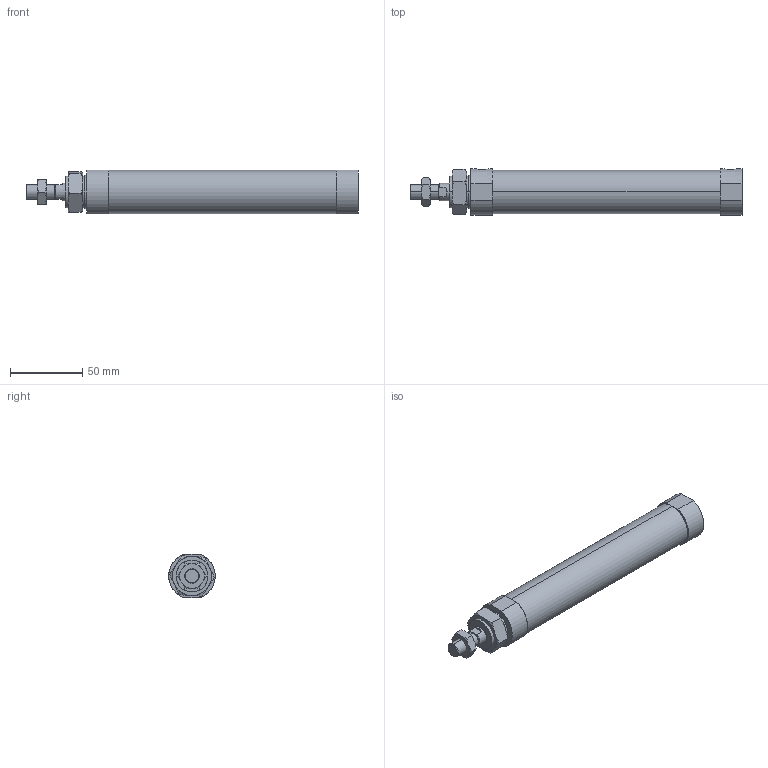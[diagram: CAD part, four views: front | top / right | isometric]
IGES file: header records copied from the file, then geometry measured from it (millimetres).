
Start section: SolidWorks IGES file using analytic representation for surfaces
Global section: file name: C:\Users\Toshiba\Desktop\JGND2-25-125-N.IGS; native system: SolidWorks 2014; preprocessor: SolidWorks 2014; author: Toshiba; date: 160804.104130; units: millimetre
Bounding box: 229 x 32 x 30 mm (x, y, z)
Surface area: 25702.4 mm2 (no closed solid volume)
Topology: 0 solids, 0 shells, 89 faces, 1592 edges, 1588 vertices
Faces by surface type: bspline 59, revolution 30
